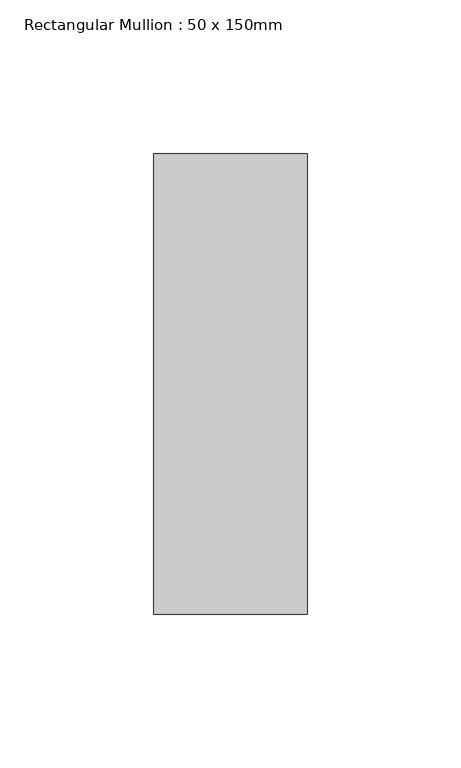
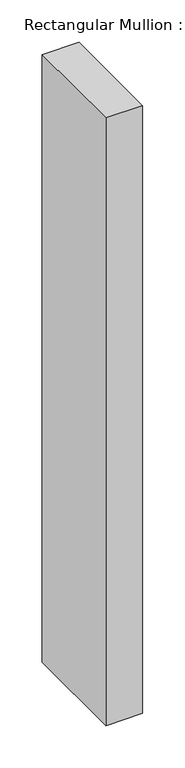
"""IFC4 building model written with IfcOpenShell, lengths in millimetres: member geometry, Rectangular Mullion : 50 x 150mm."""

from ifc_helpers import new_model, si_unit, frame, origin, place, context, project, spatial, polyline, outline, extrude, source, transform, mapped, element, save


def rectangular_mullion_50_x_150mm_ba1f1c32(model_context):
    return source(origin(), model_context, "Body", "SweptSolid", [
        extrude(outline(polyline([(0.0, 75.0), (0.0, -75.0), (-50.0, -75.0), (-50.0, 75.0), (0.0, 75.0)])), frame((0.0, 0.0, -874.2562193), z_axis=(0.0, 0.0, 1.0), x_axis=(1.0, 0.0, 0.0)), (0.0, 0.0, 1.0), 874.2562193),
    ])


if __name__ == "__main__":
    model = new_model("IFC4")
    model_context = context("Model", 3, world=origin())
    ifc_project = project(units=[si_unit("LENGTHUNIT", "METRE", prefix="MILLI")], contexts=[model_context])
    site = spatial("IfcSite", under=ifc_project)
    building = spatial("IfcBuilding", under=site)
    placement = place(None, origin())
    rectangular_mullion_50_x_150mm_shape = rectangular_mullion_50_x_150mm_ba1f1c32(model_context)
    element("IfcMember", 1, ObjectType="Rectangular Mullion : 50 x 150mm", at=placement, inside=building, context=model_context, shape_type="MappedRepresentation", body=[
        mapped(rectangular_mullion_50_x_150mm_shape, transform((0.0, 0.0, 0.0), x_axis=(1.0, 0.0, 0.0), y_axis=(0.0, 1.0, 0.0), z_axis=(0.0, 0.0, 1.0))),
    ])
    save(model, "model.ifc")
